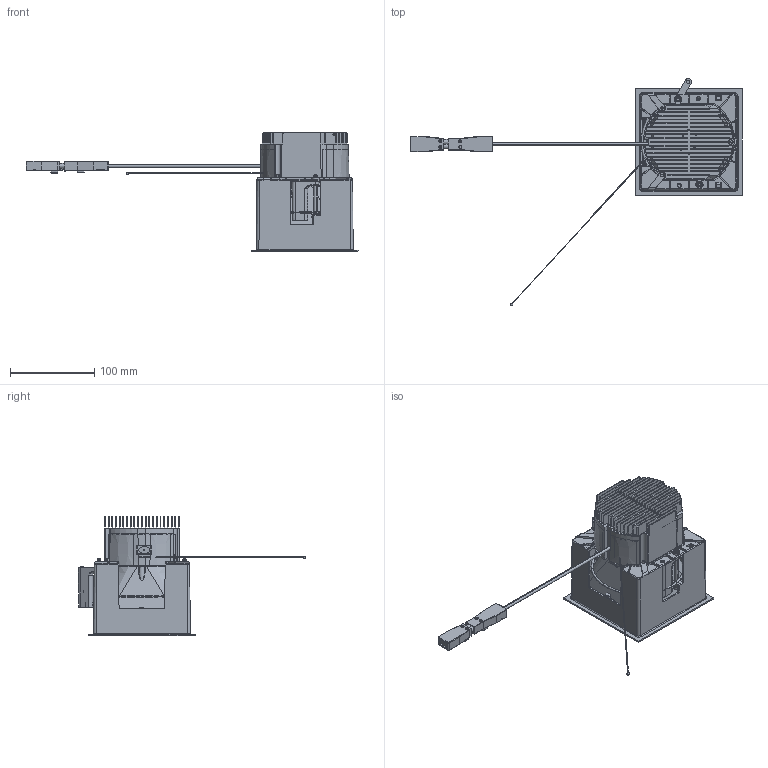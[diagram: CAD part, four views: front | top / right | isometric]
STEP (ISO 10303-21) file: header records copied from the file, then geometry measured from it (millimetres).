
FILE_DESCRIPTION((''),'2;1');
FILE_NAME('X_DG14K_00_0_ASM','2020-09-09T',('Administrator'),(''),'PRO/ENGINEER BY PARAMETRIC TECHNOLOGY CORPORATION, 2001280','PRO/ENGINEER BY PARAMETRIC TECHNOLOGY CORPORATION, 2001280','');
FILE_SCHEMA(('CONFIG_CONTROL_DESIGN'));
Length unit declared in the file: millimetre
Products named in the file (30): PARTBODY_1; PARTBODY_2; _3_40535_00_0; 3_40535_00_0_ASM; 1_40235_00_0; 1_40244_00_0; STUDIO_LED_NICHIA__1600LM_00_0; 1_39931_02_0; 1_40686_00_0; 1_01159_00_0; 1_00398_00_0; 1_40633_00_0; 1_01068_00_0; 1_32729_00_0; 1_22047_00_0; 1_40656_00_0; 1_40488_00_0; 1_40788_00_0; 1_40536_00_0_ASM; 3_40517_00_0; 1_38119_01_0; 1_23490_00_0; 1_40141_00_0; 1_40783_00_0; 1_41026_00_0; 1_40534_00_0_ASM; 51776-REV01-03062020; 45335; 45336; X_DG14K_00_0_ASM
Assembly tree (44 placements, depth 4):
  X_DG14K_00_0_ASM
    1_40536_00_0_ASM
      3_40535_00_0_ASM
        PARTBODY_1
        PARTBODY_2
        _3_40535_00_0
      1_40235_00_0  x2
      1_40244_00_0  x2
      STUDIO_LED_NICHIA__1600LM_00_0
      1_39931_02_0
      1_40686_00_0  x2
      1_01159_00_0  x3
      1_00398_00_0
      1_40633_00_0  x3
      1_01068_00_0  x2
      1_32729_00_0  x4
      1_22047_00_0
      1_40656_00_0
      1_40488_00_0
      1_40788_00_0
    1_40534_00_0_ASM
      3_40517_00_0
      1_38119_01_0
      1_23490_00_0  x3
      1_40141_00_0
      1_40783_00_0  x3
      1_41026_00_0
    51776-REV01-03062020
    45335
    45336
Bounding box: 393 x 269.1 x 141.6 mm (x, y, z)
Volume: 294838.6 mm3; surface area: 305556.1 mm2
Topology: 36 solids, 493 shells, 3867 faces, 11767 edges, 8409 vertices
Faces by surface type: plane 2079, cylinder 840, cone 471, bspline 206, torus 167, extrusion 53, revolution 27, sphere 24
Entity records: 141853 total; most frequent: CARTESIAN_POINT 48102, ORIENTED_EDGE 19023, DIRECTION 18077, EDGE_CURVE 10700, VERTEX_POINT 7794, AXIS2_PLACEMENT_3D 6040, VECTOR 5970, LINE 5921
